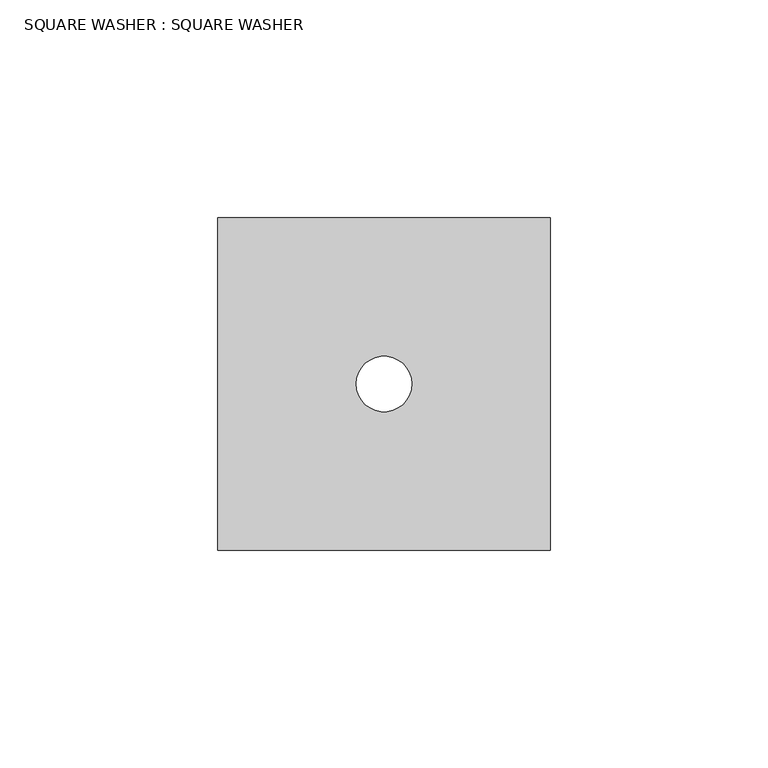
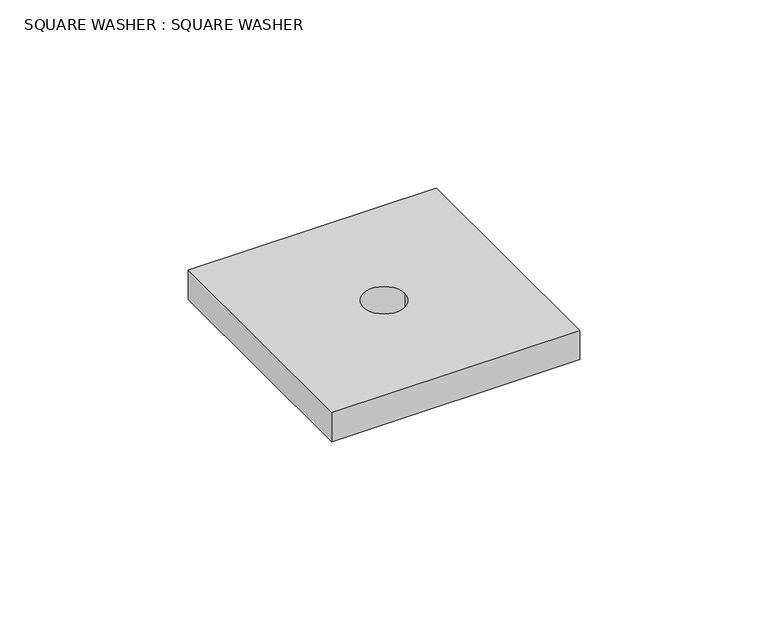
"""IFC4 building model written with IfcOpenShell, lengths in millimetres: proxy geometry, SQUARE WASHER : SQUARE WASHER."""

from ifc_helpers import new_model, si_unit, point, origin, origin_with_axes, origin_2d, place, context, project, spatial, polyline, circle_curve, trimmed, segment, composite_curve, outline, extrude, source, transform, mapped, element, save


def square_washer_square_washer_0353e511(model_context):
    return source(origin(), model_context, "Body", "SweptSolid", [
        extrude(outline(polyline([(38.1, 38.1), (38.1, -38.1), (-38.1, -38.1), (-38.1, 38.1), (38.1, 38.1)]), holes=[composite_curve([segment(trimmed(circle_curve(origin_2d(), 6.35), [point((-6.35, 0.0))], [point((6.35, 0.0))], True, "CARTESIAN"), True, "CONTINUOUS"), segment(trimmed(circle_curve(origin_2d(), 6.35), [point((6.35, 0.0))], [point((-6.35, 0.0))], True, "CARTESIAN"), True, "CONTINUOUS")], self_intersect=False)]), origin_with_axes(), (0.0, 0.0, 1.0), 9.525),
    ])


if __name__ == "__main__":
    model = new_model("IFC4")
    model_context = context("Model", 3, world=origin())
    ifc_project = project(units=[si_unit("LENGTHUNIT", "METRE", prefix="MILLI")], contexts=[model_context])
    site = spatial("IfcSite", under=ifc_project)
    building = spatial("IfcBuilding", under=site)
    placement = place(None, origin())
    square_washer_square_washer_shape = square_washer_square_washer_0353e511(model_context)
    element("IfcBuildingElementProxy", 1, Name="SQUARE WASHER : SQUARE WASHER", ObjectType="SQUARE WASHER : SQUARE WASHER", at=placement, inside=building, context=model_context, shape_type="MappedRepresentation", body=[
        mapped(square_washer_square_washer_shape, transform((0.0, 0.0, 0.0), x_axis=(1.0, 0.0, 0.0), y_axis=(0.0, 1.0, 0.0), z_axis=(0.0, 0.0, 1.0))),
    ])
    save(model, "model.ifc")
